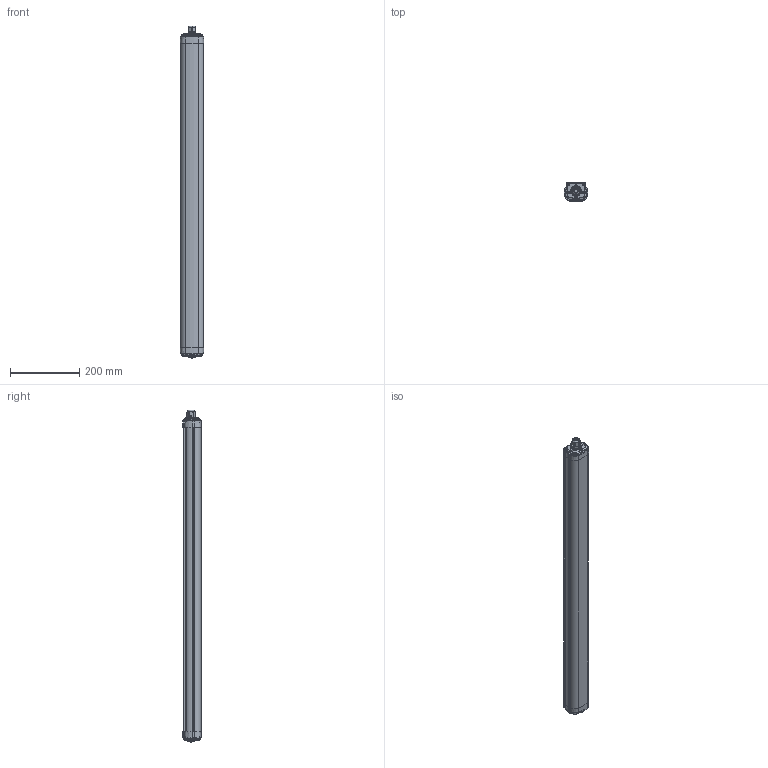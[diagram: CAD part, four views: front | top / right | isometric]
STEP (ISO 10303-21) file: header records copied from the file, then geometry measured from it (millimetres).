
FILE_DESCRIPTION((''),'2;1');
FILE_NAME('ASM0001_ASM','2026-06-27T16:27:00',('Administrator'),(''),'CREO PARAMETRIC BY PTC INC, 2021164','CREO PARAMETRIC BY PTC INC, 2021164','');
FILE_SCHEMA(('CONFIG_CONTROL_DESIGN','SHAPE_APPEARANCE_LAYERS_GROUPS'));
Length unit declared in the file: millimetre
Products named in the file (6): PRT0001; PRT0002; PRT0003; PRT0004; PRT0005; ASM0001_ASM
Assembly tree (6 placements, depth 2):
  ASM0001_ASM
    PRT0001  x2
    PRT0002
    PRT0003
    PRT0004
    PRT0005
Bounding box: 68.26 x 54.62 x 955.85 mm (x, y, z)
Volume: 2879352.4 mm3; surface area: 352179.4 mm2
Topology: 6 solids, 6 shells, 491 faces, 1144 edges, 672 vertices
Faces by surface type: bspline 152, cylinder 145, plane 98, torus 76, cone 14, sphere 6
Entity records: 16521 total; most frequent: CARTESIAN_POINT 6284, ORIENTED_EDGE 1328, DIRECTION 1222, PRESENTATION_STYLE_ASSIGNMENT 952, STYLED_ITEM 952, CURVE_STYLE 664, EDGE_CURVE 664, AXIS2_PLACEMENT_3D 495
